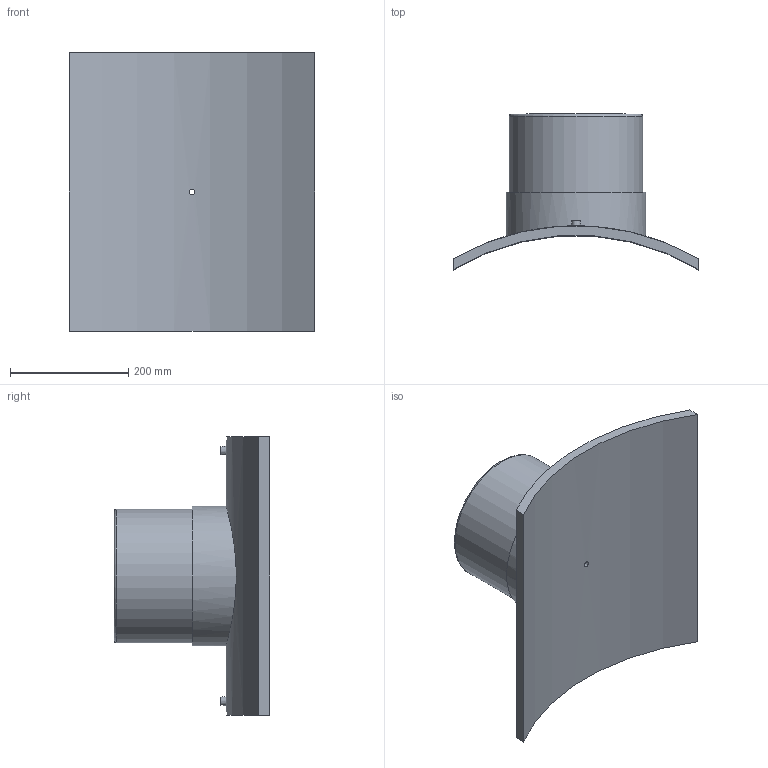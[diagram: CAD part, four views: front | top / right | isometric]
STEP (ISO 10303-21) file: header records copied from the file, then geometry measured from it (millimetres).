
FILE_DESCRIPTION(/* description */ ('PLASSON BRANCH SADDLE 800x225'),/* implementation_level */ '2;1');
FILE_NAME(/* name */ 'C:\Dropbox\KIMPROJECTS-Inventor 2019\99-16-3568-Processing\ElectroFusion Fittings\495803\stp\495803800225T.stp',/* time_stamp */ '2024-04-04T11:57:21+02:00',/* author */ ('KIM'),/* organization */ (''),/* preprocessor_version */ 'ST-DEVELOPER v17.2',/* originating_system */ 'Autodesk Inventor 2019',/* authorisation */ '');
FILE_SCHEMA (('AUTOMOTIVE_DESIGN { 1 0 10303 214 3 1 1 }'));
Length unit declared in the file: millimetre
Products named in the file (1): 495803800225T
Bounding box: 415 x 263.03 x 470 mm (x, y, z)
Volume: 6341849 mm3; surface area: 699680.5 mm2
Topology: 1 solids, 1 shells, 29 faces, 60 edges, 43 vertices
Faces by surface type: plane 13, cylinder 12, torus 2, cone 2
Full cylindrical faces by diameter (mm): 4 x2, 9.6 x1, 10 x2, 16 x1, 180 x1, 225 x1, 236.25 x1
Entity records: 1086 total; most frequent: CARTESIAN_POINT 400, DIRECTION 139, ORIENTED_EDGE 120, EDGE_CURVE 60, AXIS2_PLACEMENT_3D 60, VERTEX_POINT 43, EDGE_LOOP 41, CIRCLE 30
